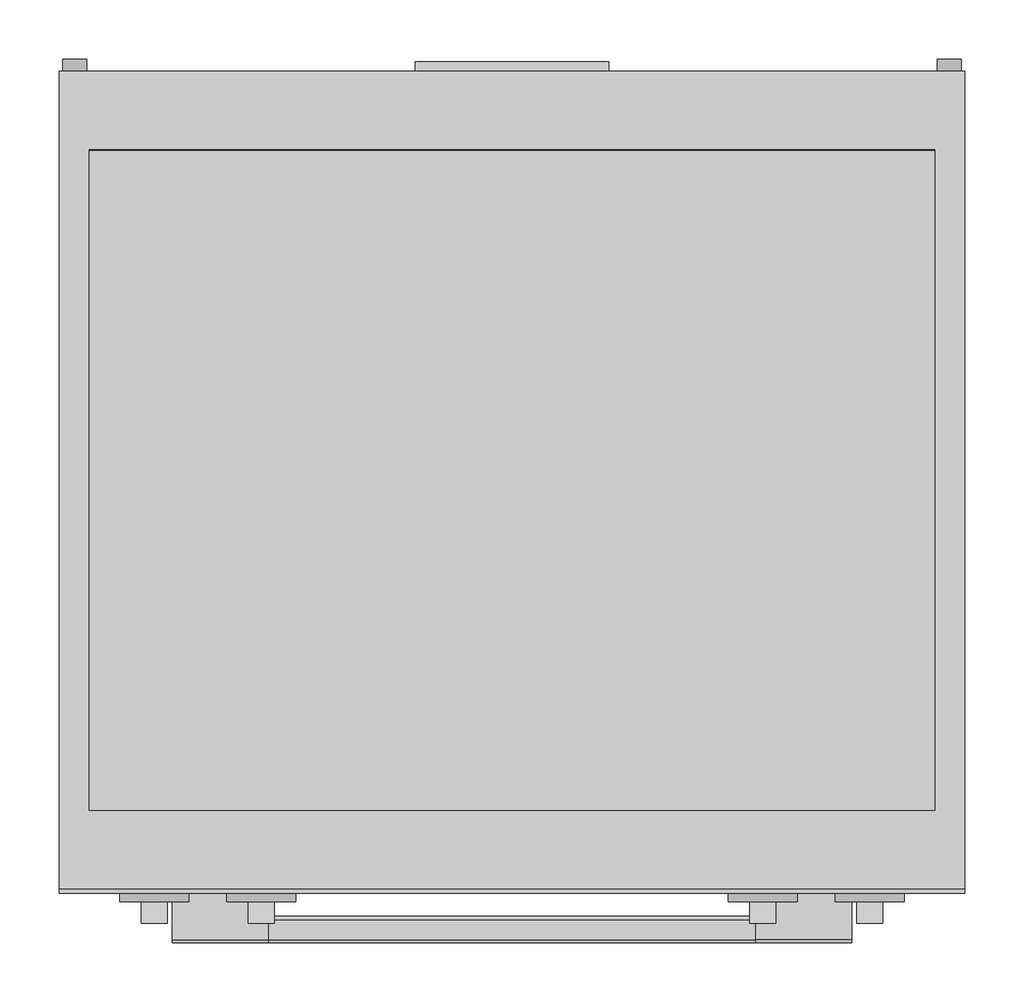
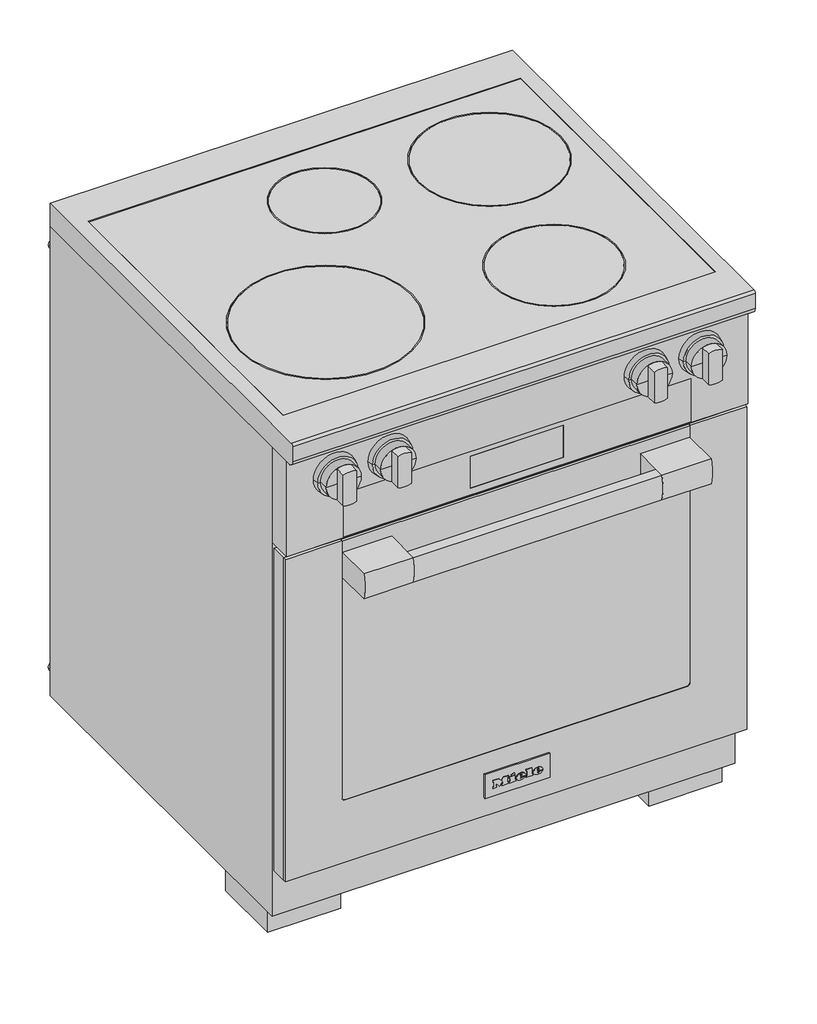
# Not in any storey: 1 proxy.
"""IFC4 building model written with IfcOpenShell, lengths in millimetres."""

from ifc_helpers import new_model, si_unit, origin, place, context, project, spatial, transform, mapped, element, save
from components import specialty_equipment_27b714ed

model = new_model("IFC4")

# Units and contexts
model_context = context("Model", 3, world=origin())
ifc_project = project(units=[si_unit("LENGTHUNIT", "METRE", prefix="MILLI")], contexts=[model_context])

# Site, building
site = spatial("IfcSite", under=ifc_project)
building = spatial("IfcBuilding", under=site)

# Proxy
placement = place(None, origin())
specialty_equipment_shape = specialty_equipment_27b714ed(model_context)
element("IfcBuildingElementProxy", 1, Name="11791520_USA_HR1622-3_EDST-CLST : 25162281_USA_11791520_HR1622-3_EDST-CLST", ObjectType="11791520_USA_HR1622-3_EDST-CLST : 25162281_USA_11791520_HR1622-3_EDST-CLST", at=placement, inside=building, context=model_context, shape_type="MappedRepresentation", body=[
    mapped(specialty_equipment_shape, transform((0.0, 0.0, 0.0), x_axis=(1.0, 0.0, 0.0), y_axis=(0.0, 1.0, 0.0), z_axis=(0.0, 0.0, 1.0))),
])

save(model, "model.ifc")
